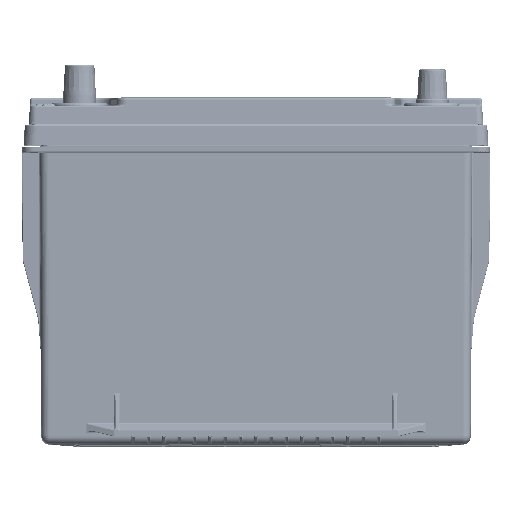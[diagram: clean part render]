
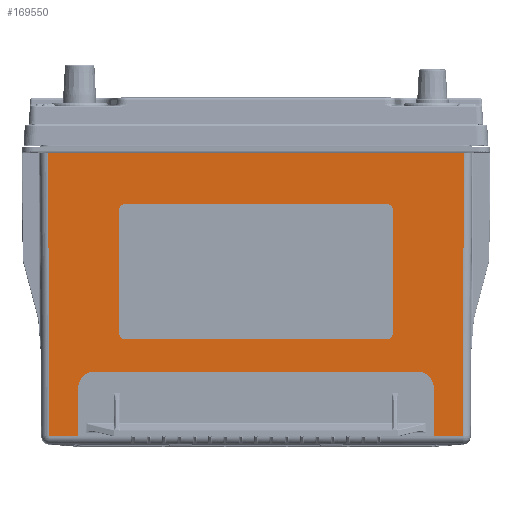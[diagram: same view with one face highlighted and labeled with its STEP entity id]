
A CAD part, top view. The second image highlights one B-rep face of the part: STEP entity #169550.
In plain terms, the highlighted planar face has unit normal (0, -0.003, 1).
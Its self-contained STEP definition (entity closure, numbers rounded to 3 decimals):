
#961 = DIRECTION ( 'NONE',  ( 0.005, 1., 0.003 ) ) ;
#5957 = CARTESIAN_POINT ( 'NONE',  ( 4.795, -7.096, 3.153 ) ) ;
#10712 = CARTESIAN_POINT ( 'NONE',  ( -3.75, -5.595, 3.157 ) ) ;
#20814 = VERTEX_POINT ( 'NONE', #202973 ) ;
#30142 = VERTEX_POINT ( 'NONE', #220425 ) ;
#39081 = EDGE_CURVE ( 'NONE', #421851, #224758, #370543, .T. ) ;
#40523 = CARTESIAN_POINT ( 'NONE',  ( 4.981, -7.096, 3.153 ) ) ;
#43971 = EDGE_CURVE ( 'NONE', #30142, #280761, #47125, .T. ) ;
#46741 = DIRECTION ( 'NONE',  ( 0., 1., 0.003 ) ) ;
#47125 = LINE ( 'NONE', #73255, #76674 ) ;
#51068 = EDGE_CURVE ( 'NONE', #84323, #225396, #116357, .T. ) ;
#62551 = EDGE_CURVE ( 'NONE', #30142, #395815, #231243, .T. ) ;
#66283 = CARTESIAN_POINT ( 'NONE',  ( -4.829, -0.525, 3.17 ) ) ;
#73255 = CARTESIAN_POINT ( 'NONE',  ( 4.126, 0., 3.171 ) ) ;
#73263 = CARTESIAN_POINT ( 'NONE',  ( -4.126, -5.971, 3.156 ) ) ;
#76674 = VECTOR ( 'NONE', #114242, 39.37 ) ;
#77708 = ORIENTED_EDGE ( 'NONE', *, *, #43971, .F. ) ;
#84323 = VERTEX_POINT ( 'NONE', #66283 ) ;
#86070 = CARTESIAN_POINT ( 'NONE',  ( -5.019, 0., 3.171 ) ) ;
#90360 = DIRECTION ( 'NONE',  ( 0., -0.003, 1. ) ) ;
#92697 = ORIENTED_EDGE ( 'NONE', *, *, #62551, .T. ) ;
#99430 = ORIENTED_EDGE ( 'NONE', *, *, #209892, .T. ) ;
#105877 = VERTEX_POINT ( 'NONE', #254198 ) ;
#114037 = ORIENTED_EDGE ( 'NONE', *, *, #51068, .T. ) ;
#114242 = DIRECTION ( 'NONE',  ( 0., 1., 0.003 ) ) ;
#116357 = LINE ( 'NONE', #146698, #205028 ) ;
#119269 = EDGE_CURVE ( 'NONE', #395815, #20814, #388991, .T. ) ;
#131539 = DIRECTION ( 'NONE',  ( 1., 0., 0. ) ) ;
#136568 = CARTESIAN_POINT ( 'NONE',  ( -3.75, -5.595, 3.157 ) ) ;
#140795 = DIRECTION ( 'NONE',  ( -1., 0., 0. ) ) ;
#146698 = CARTESIAN_POINT ( 'NONE',  ( -4.832, 0.001, 3.171 ) ) ;
#153832 = LINE ( 'NONE', #418312, #173844 ) ;
#159719 = ORIENTED_EDGE ( 'NONE', *, *, #39081, .F. ) ;
#169550 = ADVANCED_FACE ( 'NONE', ( #385087 ), #187834, .T. ) ;
#173844 = VECTOR ( 'NONE', #385759, 39.37 ) ;
#182807 = DIRECTION ( 'NONE',  ( 0., -1., -0.003 ) ) ;
#186629 = EDGE_LOOP ( 'NONE', ( #77708, #92697, #262290, #99430, #114037, #282891, #312838, #356495, #159719, #345918 ) ) ;
#187834 = PLANE ( 'NONE',  #327178 ) ;
#191912 = CARTESIAN_POINT ( 'NONE',  ( -4.126, -5.971, 3.156 ) ) ;
#198251 = VECTOR ( 'NONE', #140795, 39.37 ) ;
#198767 = VECTOR ( 'NONE', #268363, 39.37 ) ;
#202973 = CARTESIAN_POINT ( 'NONE',  ( 4.829, -0.525, 3.17 ) ) ;
#205028 = VECTOR ( 'NONE', #382881, 39.37 ) ;
#209892 = EDGE_CURVE ( 'NONE', #20814, #84323, #153832, .T. ) ;
#216112 = DIRECTION ( 'NONE',  ( 0., -1., -0.003 ) ) ;
#220425 = CARTESIAN_POINT ( 'NONE',  ( 4.126, -7.096, 3.153 ) ) ;
#224288 = CARTESIAN_POINT ( 'NONE',  ( 4.832, -0.052, 3.171 ) ) ;
#224758 = VERTEX_POINT ( 'NONE', #10712 ) ;
#225396 = VERTEX_POINT ( 'NONE', #246070 ) ;
#231243 = LINE ( 'NONE', #296220, #305590 ) ;
#232861 = AXIS2_PLACEMENT_3D ( 'NONE', #382163, #282487, #182807 ) ;
#234594 = EDGE_CURVE ( 'NONE', #280761, #421851, #419711, .T. ) ;
#235557 = EDGE_CURVE ( 'NONE', #395069, #105877, #339719, .T. ) ;
#239659 = CARTESIAN_POINT ( 'NONE',  ( -3.75, -5.971, 3.156 ) ) ;
#240077 = AXIS2_PLACEMENT_3D ( 'NONE', #239659, #246053, #46741 ) ;
#241049 = EDGE_CURVE ( 'NONE', #224758, #395069, #427045, .T. ) ;
#246053 = DIRECTION ( 'NONE',  ( 0., -0.003, 1. ) ) ;
#246070 = CARTESIAN_POINT ( 'NONE',  ( -4.795, -7.096, 3.153 ) ) ;
#254198 = CARTESIAN_POINT ( 'NONE',  ( -4.126, -7.096, 3.153 ) ) ;
#262290 = ORIENTED_EDGE ( 'NONE', *, *, #119269, .T. ) ;
#268363 = DIRECTION ( 'NONE',  ( 0., -1., -0.003 ) ) ;
#280761 = VERTEX_POINT ( 'NONE', #302520 ) ;
#282487 = DIRECTION ( 'NONE',  ( 0., -0.003, 1. ) ) ;
#282891 = ORIENTED_EDGE ( 'NONE', *, *, #324941, .T. ) ;
#291886 = VECTOR ( 'NONE', #406804, 39.37 ) ;
#296220 = CARTESIAN_POINT ( 'NONE',  ( 4.981, -7.096, 3.153 ) ) ;
#302520 = CARTESIAN_POINT ( 'NONE',  ( 4.126, -5.971, 3.156 ) ) ;
#305590 = VECTOR ( 'NONE', #131539, 39.37 ) ;
#312838 = ORIENTED_EDGE ( 'NONE', *, *, #235557, .F. ) ;
#324941 = EDGE_CURVE ( 'NONE', #225396, #105877, #341682, .T. ) ;
#327178 = AXIS2_PLACEMENT_3D ( 'NONE', #86070, #90360, #216112 ) ;
#339719 = LINE ( 'NONE', #73263, #198767 ) ;
#341682 = LINE ( 'NONE', #40523, #291886 ) ;
#345918 = ORIENTED_EDGE ( 'NONE', *, *, #234594, .F. ) ;
#356495 = ORIENTED_EDGE ( 'NONE', *, *, #241049, .F. ) ;
#370543 = LINE ( 'NONE', #136568, #198251 ) ;
#377916 = CARTESIAN_POINT ( 'NONE',  ( 3.75, -5.595, 3.157 ) ) ;
#382163 = CARTESIAN_POINT ( 'NONE',  ( 3.75, -5.971, 3.156 ) ) ;
#382881 = DIRECTION ( 'NONE',  ( 0.005, -1., -0.003 ) ) ;
#385087 = FACE_OUTER_BOUND ( 'NONE', #186629, .T. ) ;
#385759 = DIRECTION ( 'NONE',  ( -1., 0., 0. ) ) ;
#388991 = LINE ( 'NONE', #224288, #399061 ) ;
#395069 = VERTEX_POINT ( 'NONE', #191912 ) ;
#395815 = VERTEX_POINT ( 'NONE', #5957 ) ;
#399061 = VECTOR ( 'NONE', #961, 39.37 ) ;
#406804 = DIRECTION ( 'NONE',  ( 1., 0., 0. ) ) ;
#418312 = CARTESIAN_POINT ( 'NONE',  ( -5.019, -0.525, 3.17 ) ) ;
#419711 = CIRCLE ( 'NONE', #232861, 0.376 ) ;
#421851 = VERTEX_POINT ( 'NONE', #377916 ) ;
#427045 = CIRCLE ( 'NONE', #240077, 0.376 ) ;
